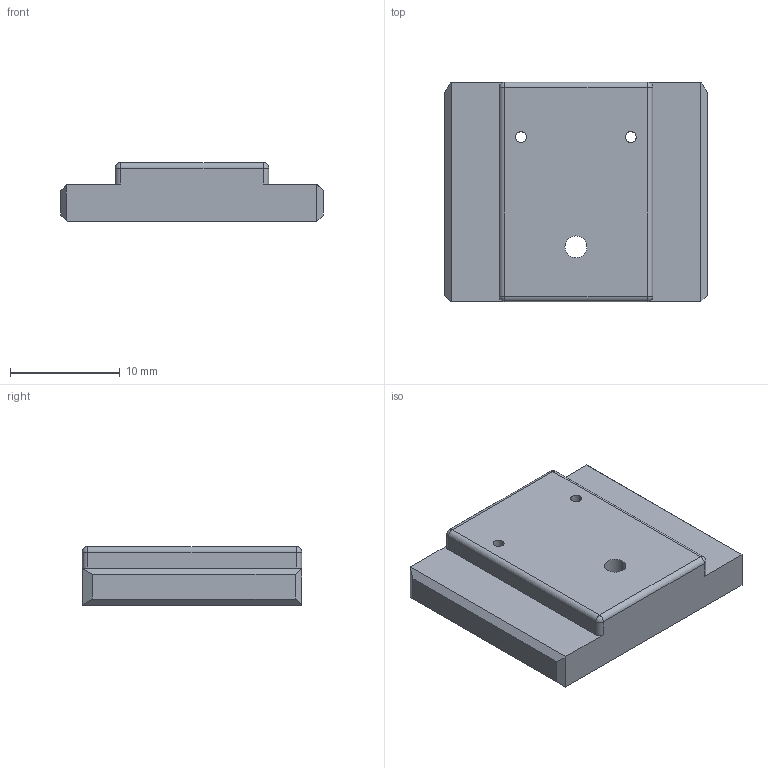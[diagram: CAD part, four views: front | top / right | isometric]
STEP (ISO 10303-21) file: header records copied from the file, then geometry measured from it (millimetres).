
FILE_DESCRIPTION((''),'2;1');
FILE_NAME('PRT0002','2016-10-19T',('Tim'),(''),'CREO PARAMETRIC BY PTC INC, 2015380','CREO PARAMETRIC BY PTC INC, 2015380','');
FILE_SCHEMA(('CONFIG_CONTROL_DESIGN'));
Length unit declared in the file: millimetre
Products named in the file (1): PRT0002
Bounding box: 23.9 x 20 x 5.35 mm (x, y, z)
Volume: 2126.6 mm3; surface area: 1395.7 mm2
Topology: 1 solids, 1 shells, 36 faces, 90 edges, 56 vertices
Faces by surface type: plane 18, cylinder 14, sphere 4
Entity records: 1116 total; most frequent: DIRECTION 190, CARTESIAN_POINT 182, ORIENTED_EDGE 180, EDGE_CURVE 90, AXIS2_PLACEMENT_3D 64, VECTOR 62, LINE 62, VERTEX_POINT 56
